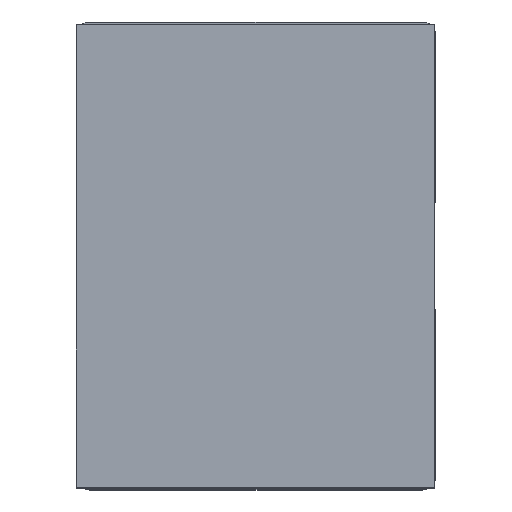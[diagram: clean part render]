
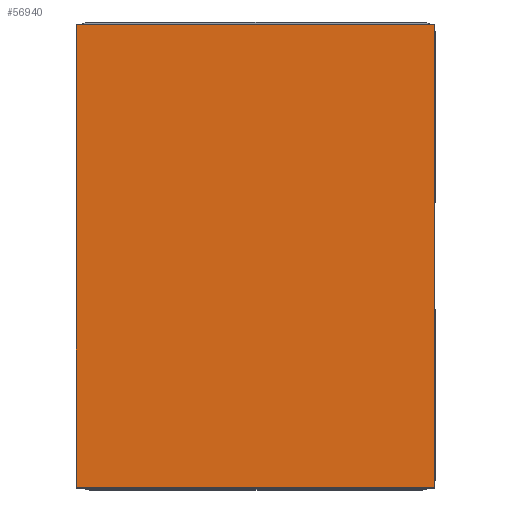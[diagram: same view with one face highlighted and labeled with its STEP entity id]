
A CAD part, top view. The second image highlights one B-rep face of the part: STEP entity #56940.
In plain terms, the highlighted planar face has unit normal (0, 0, 1) as drawn and (0, 0, -1) by its records, which use the part's own axes.
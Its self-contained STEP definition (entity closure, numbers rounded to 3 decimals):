
#2824 = DIRECTION ( 'NONE',  ( -1., 0., 0. ) ) ;
#2894 = EDGE_CURVE ( 'NONE', #8286, #46854, #18961, .T. ) ;
#4759 = CARTESIAN_POINT ( 'NONE',  ( 20.9, 0., 0. ) ) ;
#5012 = VECTOR ( 'NONE', #19762, 1000. ) ;
#5906 = CARTESIAN_POINT ( 'NONE',  ( 0., 0., 0. ) ) ;
#6347 = LINE ( 'NONE', #38429, #30445 ) ;
#7973 = ORIENTED_EDGE ( 'NONE', *, *, #16476, .F. ) ;
#8286 = VERTEX_POINT ( 'NONE', #5906 ) ;
#11886 = FACE_OUTER_BOUND ( 'NONE', #31313, .T. ) ;
#13850 = VERTEX_POINT ( 'NONE', #29219 ) ;
#16476 = EDGE_CURVE ( 'NONE', #53554, #8286, #33635, .T. ) ;
#18961 = LINE ( 'NONE', #25902, #28770 ) ;
#19762 = DIRECTION ( 'NONE',  ( 0., -1., 0. ) ) ;
#25743 = CARTESIAN_POINT ( 'NONE',  ( 20.9, 0., 0. ) ) ;
#25902 = CARTESIAN_POINT ( 'NONE',  ( 0., 0., 0. ) ) ;
#26569 = PLANE ( 'NONE',  #40944 ) ;
#26853 = ORIENTED_EDGE ( 'NONE', *, *, #31577, .F. ) ;
#28770 = VECTOR ( 'NONE', #54774, 1000. ) ;
#29219 = CARTESIAN_POINT ( 'NONE',  ( 20.9, 27., 0. ) ) ;
#30294 = VECTOR ( 'NONE', #49971, 1000. ) ;
#30445 = VECTOR ( 'NONE', #43220, 1000. ) ;
#31313 = EDGE_LOOP ( 'NONE', ( #7973, #26853, #52233, #43229 ) ) ;
#31577 = EDGE_CURVE ( 'NONE', #13850, #53554, #6347, .T. ) ;
#31661 = DIRECTION ( 'NONE',  ( 0., 0., -1. ) ) ;
#33635 = LINE ( 'NONE', #34086, #5012 ) ;
#34086 = CARTESIAN_POINT ( 'NONE',  ( 0., 0., 0. ) ) ;
#35762 = EDGE_CURVE ( 'NONE', #46854, #13850, #55903, .T. ) ;
#38429 = CARTESIAN_POINT ( 'NONE',  ( 0., 27., 0. ) ) ;
#39441 = CARTESIAN_POINT ( 'NONE',  ( 0., 27., 0. ) ) ;
#40944 = AXIS2_PLACEMENT_3D ( 'NONE', #45949, #31661, #2824 ) ;
#43220 = DIRECTION ( 'NONE',  ( -1., 0., 0. ) ) ;
#43229 = ORIENTED_EDGE ( 'NONE', *, *, #2894, .F. ) ;
#45949 = CARTESIAN_POINT ( 'NONE',  ( 0., 0., 0. ) ) ;
#46854 = VERTEX_POINT ( 'NONE', #4759 ) ;
#49971 = DIRECTION ( 'NONE',  ( 0., 1., 0. ) ) ;
#52233 = ORIENTED_EDGE ( 'NONE', *, *, #35762, .F. ) ;
#53554 = VERTEX_POINT ( 'NONE', #39441 ) ;
#54774 = DIRECTION ( 'NONE',  ( 1., 0., 0. ) ) ;
#55903 = LINE ( 'NONE', #25743, #30294 ) ;
#56940 = ADVANCED_FACE ( 'NONE', ( #11886 ), #26569, .T. ) ;
